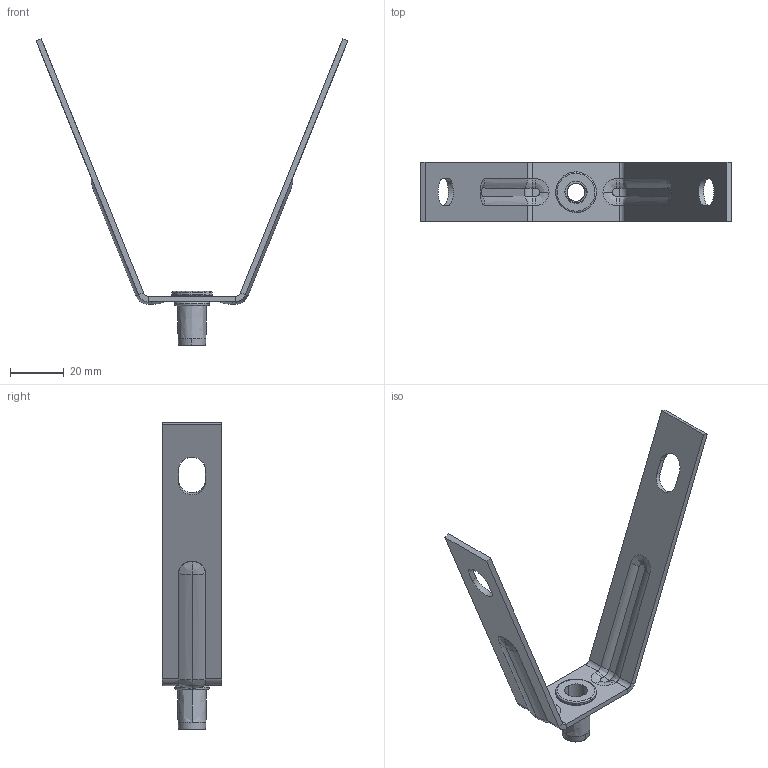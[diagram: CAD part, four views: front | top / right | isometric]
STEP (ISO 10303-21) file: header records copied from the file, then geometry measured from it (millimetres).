
FILE_DESCRIPTION(/* description */ (''),/* implementation_level */ '2;1');
FILE_NAME(/* name */ 'DZM5_P~1',/* time_stamp */ '2024-02-19T17:19:30+01:00',/* author */ (''),/* organization */ (''),/* preprocessor_version */ 'ST-DEVELOPER v16.5',/* originating_system */ '',/* authorisation */ '');
FILE_SCHEMA (('CONFIG_CONTROL_DESIGN'));
Length unit declared in the file: millimetre
Products named in the file (1): Document
Bounding box: 115.71 x 22 x 113.71 mm (x, y, z)
Volume: 10214.7 mm3; surface area: 13078.7 mm2
Topology: 2 solids, 3 shells, 1283 faces, 3362 edges, 2075 vertices
Faces by surface type: plane 597, bspline 544, cylinder 142
Entity records: 45118 total; most frequent: CARTESIAN_POINT 23542, ORIENTED_EDGE 6724, EDGE_CURVE 3368, B_SPLINE_CURVE_WITH_KNOTS 2737, VERTEX_POINT 2079, EDGE_LOOP 1292, ADVANCED_FACE 1283, FACE_OUTER_BOUND 1283
